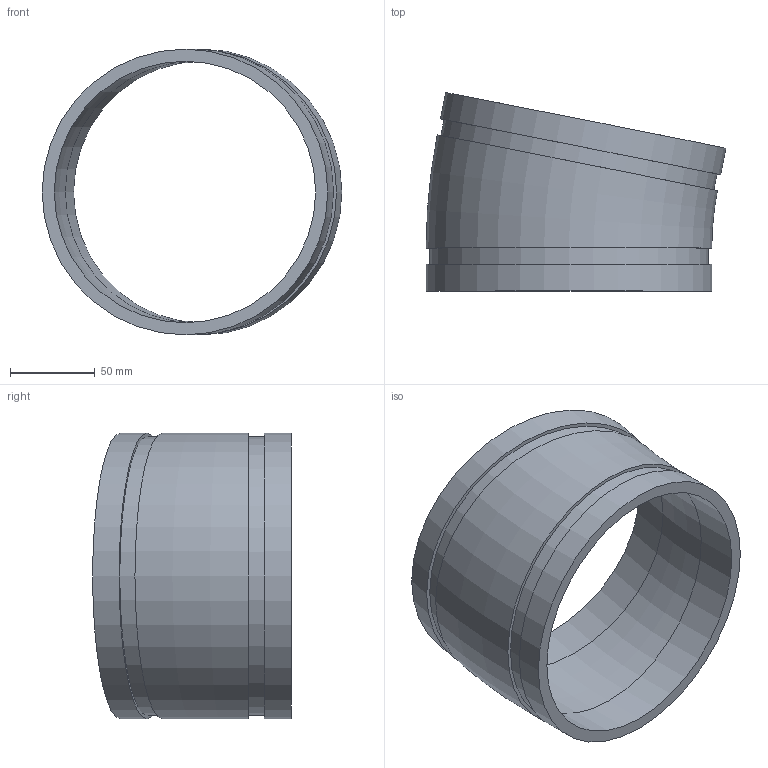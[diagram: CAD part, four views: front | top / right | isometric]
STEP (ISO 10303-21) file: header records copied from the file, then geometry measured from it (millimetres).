
FILE_DESCRIPTION(/* description */ ('VIC 11-1/4 DEG. ELBOW No 13','CAx-IF Rec.Pracs.---Representation and Presentation of Product Manufacturing Information (PMI)---4.0---2014-10-13'),/* implementation_level */ '2;1');
FILE_NAME(/* name */ 'C:\Users\kkamble\AppData\Roaming\Autodesk\ApplicationPlugins\Back Up\Victaulic_IPS_Elbow 11.25 Deg_No 13 (OGS)\Victaulic_IPS_Elbow 11.25 Deg_No 13 (OGS)_6 (150).stp',/* time_stamp */ '2020-07-24T08:09:19+06:00',/* author */ ('CONSTRUCTION PIPING SERVICES'),/* organization */ ('Victaulic'),/* preprocessor_version */ 'ST-DEVELOPER v17.2',/* originating_system */ 'Autodesk Inventor 2019',/* authorisation */ '');
FILE_SCHEMA (('AP242_MANAGED_MODEL_BASED_3D_ENGINEERING_MIM_LF { 1 0 10303 442 1 1 4 }'));
Length unit declared in the file: inch
Products named in the file (1): 013-06.0
Bounding box: 176.57 x 117.04 x 168.28 mm (x, y, z)
Volume: 343796 mm3; surface area: 114166.7 mm2
Topology: 1 solids, 1 shells, 14 faces, 32 edges, 24 vertices
Faces by surface type: plane 6, cylinder 6, torus 2
Full cylindrical faces by diameter (mm): 154.051 x2, 163.957 x2, 168.275 x2
Entity records: 487 total; most frequent: DIRECTION 88, CARTESIAN_POINT 71, ORIENTED_EDGE 64, AXIS2_PLACEMENT_3D 41, EDGE_CURVE 32, CIRCLE 26, VERTEX_POINT 24, EDGE_LOOP 20
